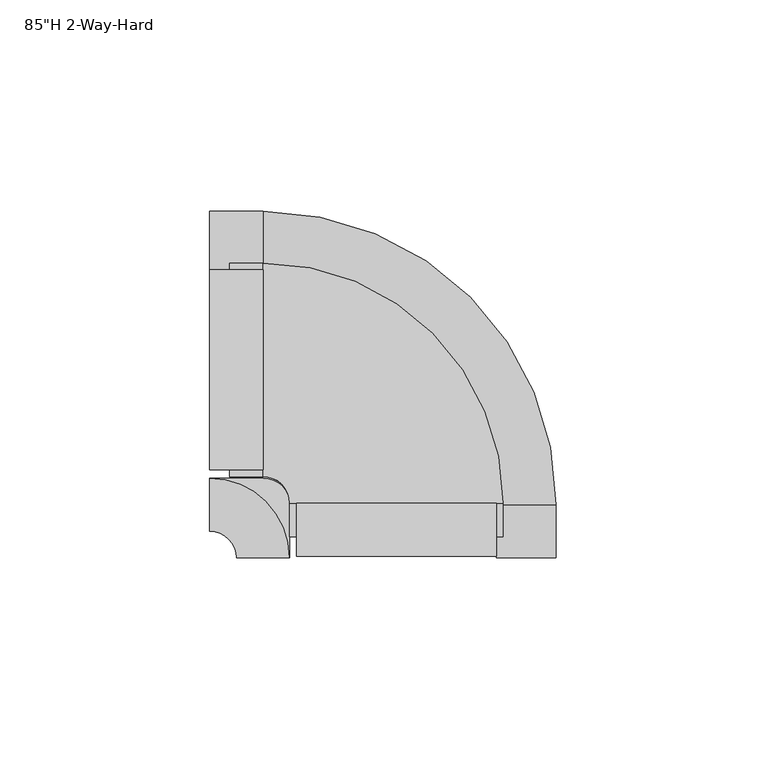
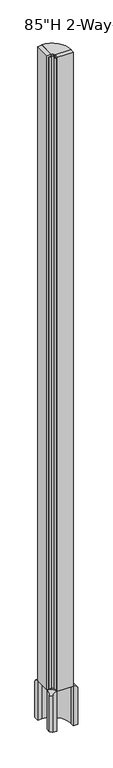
"""IFC4 building model written with IfcOpenShell, lengths in millimetres: furniture geometry."""

import ifcopenshell
import ifcopenshell.guid

model = None  # the IFC model being written
_history = None  # IfcOwnerHistory: only IFC2X3 demands one
_inside = {}  # id of a spatial element -> (the spatial element, [elements in it])
_under = {}  # id of a project, library or spatial element -> (it, [spatial elements below it])
_declared = {}  # id of a project -> (the project, [libraries it declares])
_typed = {}  # id of a type object -> (the type object, [elements of that type])
_made_of = {}  # id of a material, layer set ... -> (it, [elements and type objects made of it])


def new_model(schema):
    """Start an empty IFC model of exactly this schema.

    Asked for "IFC4X3", IfcOpenShell would pick the latest addendum, in which some entities
    have other attributes; the version numbers below select the first issue.
    IFC2X3 requires an IfcOwnerHistory on every rooted entity: one is made here for all.
    """
    global model, _history
    if schema == "IFC4X3":
        model = ifcopenshell.file(schema_version=(4, 3, 0, 0))
    else:
        model = ifcopenshell.file(schema=schema)
    _inside.clear()
    _under.clear()
    _declared.clear()
    _typed.clear()
    _made_of.clear()
    _history = None
    if model.schema == "IFC2X3":
        org = make("IfcOrganization", Name="unknown")
        user = make(
            "IfcPersonAndOrganization",
            ThePerson=make("IfcPerson", FamilyName="unknown"),
            TheOrganization=org,
        )
        app = make(
            "IfcApplication",
            ApplicationDeveloper=org,
            Version="unknown",
            ApplicationFullName="unknown",
            ApplicationIdentifier="unknown",
        )
        _history = make(
            "IfcOwnerHistory",
            OwningUser=user,
            OwningApplication=app,
            ChangeAction="ADDED",
            CreationDate=0,
        )
    return model


def make(cls, **values):
    """One entity of the class cls with the attributes given. An attribute that is None is left unset."""
    return model.create_entity(
        cls, **{name: value for name, value in values.items() if value is not None}
    )


def rooted(cls, **values):
    """An entity with a GlobalId (a new one), such as an element, a storey or a relation."""
    return make(cls, GlobalId=ifcopenshell.guid.new(), OwnerHistory=_history, **values)


def si_unit(unit_type, name, prefix=None):
    """IfcSIUnit, for example si_unit("LENGTHUNIT", "METRE", prefix="MILLI")."""
    return make("IfcSIUnit", UnitType=unit_type, Prefix=prefix, Name=name)


def assignment(units):
    """IfcUnitAssignment: the units of a project."""
    return None if units is None else make("IfcUnitAssignment", Units=units)


def point(xyz):
    """IfcCartesianPoint."""
    return None if xyz is None else make("IfcCartesianPoint", Coordinates=xyz)


def direction(xyz):
    """IfcDirection."""
    return None if xyz is None else make("IfcDirection", DirectionRatios=xyz)


def frame(location, z_axis=None, x_axis=None):
    """IfcAxis2Placement3D, a coordinate frame: its origin and axes. An axis left out is left unset."""
    return make(
        "IfcAxis2Placement3D",
        Location=point(location),
        Axis=direction(z_axis),
        RefDirection=direction(x_axis),
    )


def frame_2d(location, x_axis=None):
    """IfcAxis2Placement2D, a coordinate frame in the plane: its origin and x axis."""
    return make(
        "IfcAxis2Placement2D", Location=point(location), RefDirection=direction(x_axis)
    )


def origin():
    """The frame at (0, 0, 0) with its axes left unset."""
    return frame((0.0, 0.0, 0.0))


def place(relative_to, where):
    """IfcLocalPlacement: puts the frame where relative to a parent placement (None: the world)."""
    return make(
        "IfcLocalPlacement", PlacementRelTo=relative_to, RelativePlacement=where
    )


def context(
    kind, dimensions, precision=None, world=None, true_north=None, identifier=None
):
    """IfcGeometricRepresentationContext, for example the 3D "Model" context."""
    return make(
        "IfcGeometricRepresentationContext",
        ContextIdentifier=identifier,
        ContextType=kind,
        CoordinateSpaceDimension=dimensions,
        Precision=precision,
        WorldCoordinateSystem=world,
        TrueNorth=true_north,
    )


def project(units=None, contexts=None):
    """IfcProject with its units and contexts."""
    return rooted(
        "IfcProject",
        Name="project",
        RepresentationContexts=contexts,
        UnitsInContext=assignment(units),
    )


def spatial(cls, under=None, at=None, **own):
    """A site, building, storey or space (cls), placed at a placement, below another one or the project."""
    s = rooted(cls, ObjectPlacement=at, **own)
    if under is not None:
        _under.setdefault(under.id(), (under, []))[1].append(s)
    return s


def polyline(points):
    """IfcPolyline through the points."""
    return make("IfcPolyline", Points=[point(p) for p in points])


def circle_curve(where, radius):
    """IfcCircle in the frame where."""
    return make("IfcCircle", Position=where, Radius=radius)


def ellipse_curve(where, semi_axis1, semi_axis2):
    """IfcEllipse in the frame where."""
    return make(
        "IfcEllipse", Position=where, SemiAxis1=semi_axis1, SemiAxis2=semi_axis2
    )


def trimmed(basis, trim1, trim2, sense, master):
    """IfcTrimmedCurve: the piece of a basis curve between two trims."""
    return make(
        "IfcTrimmedCurve",
        BasisCurve=basis,
        Trim1=trim1,
        Trim2=trim2,
        SenseAgreement=sense,
        MasterRepresentation=master,
    )


def segment(curve, same_sense, transition):
    """IfcCompositeCurveSegment."""
    return make(
        "IfcCompositeCurveSegment",
        Transition=transition,
        SameSense=same_sense,
        ParentCurve=curve,
    )


def composite_curve(segments, self_intersect=None):
    """IfcCompositeCurve: segments joined end to end."""
    return make("IfcCompositeCurve", Segments=segments, SelfIntersect=self_intersect)


def outline(outer, holes=None, kind="AREA"):
    """IfcArbitraryClosedProfileDef: a profile drawn as a closed curve; with holes, ...WithVoids."""
    if holes is None:
        return make("IfcArbitraryClosedProfileDef", ProfileType=kind, OuterCurve=outer)
    return make(
        "IfcArbitraryProfileDefWithVoids",
        ProfileType=kind,
        OuterCurve=outer,
        InnerCurves=holes,
    )


def extrude(swept, where, along, depth):
    """IfcExtrudedAreaSolid: the profile swept, set in the frame where, extruded along a direction by depth."""
    return make(
        "IfcExtrudedAreaSolid",
        SweptArea=swept,
        Position=where,
        ExtrudedDirection=direction(along),
        Depth=depth,
    )


def shape(context_of_items, identifier, shape_type, items):
    """IfcShapeRepresentation: the items that make up one representation, for example the "Body"."""
    return make(
        "IfcShapeRepresentation",
        ContextOfItems=context_of_items,
        RepresentationIdentifier=identifier,
        RepresentationType=shape_type,
        Items=items,
    )


def source(mapping_origin, context_of_items, identifier, shape_type, items):
    """IfcRepresentationMap: a shape defined once, which mapped items show again and again."""
    return make(
        "IfcRepresentationMap",
        MappingOrigin=mapping_origin,
        MappedRepresentation=shape(context_of_items, identifier, shape_type, items),
    )


def transform(
    local_origin,
    x_axis=None,
    y_axis=None,
    z_axis=None,
    scale=None,
    scale2=None,
    scale3=None,
    uniform=True,
):
    """IfcCartesianTransformationOperator3D, or its non-uniform kind. x_axis, y_axis, z_axis: its Axis1, 2, 3."""
    if uniform:
        return make(
            "IfcCartesianTransformationOperator3D",
            Axis1=direction(x_axis),
            Axis2=direction(y_axis),
            LocalOrigin=point(local_origin),
            Scale=scale,
            Axis3=direction(z_axis),
        )
    return make(
        "IfcCartesianTransformationOperator3DnonUniform",
        Axis1=direction(x_axis),
        Axis2=direction(y_axis),
        LocalOrigin=point(local_origin),
        Scale=scale,
        Axis3=direction(z_axis),
        Scale2=scale2,
        Scale3=scale3,
    )


def mapped(mapping_source, mapping_target):
    """IfcMappedItem: shows the shape of a source again, moved by a transform."""
    return make(
        "IfcMappedItem", MappingSource=mapping_source, MappingTarget=mapping_target
    )


def made_of(thing, what):
    """Note that an element or type object is made of a material, layer set ...; save() writes the relation."""
    if what is not None:
        _made_of.setdefault(what.id(), (what, []))[1].append(thing)
    return thing


def element(
    cls,
    number,
    at=None,
    inside=None,
    cuts=None,
    type_object=None,
    material=None,
    context=None,
    identifier="Body",
    shape_type=None,
    held_by="IfcProductDefinitionShape",
    body=None,
    shapes=None,
    **own,
):
    """One element of the class cls, such as IfcWall. Its Tag is "e" and its number.

    at: its placement. inside: the storey or other place that contains it. cuts: it is an
    opening in that element (IfcRelVoidsElement). A single representation is given by context,
    identifier, shape_type and body (its items); several are given by shapes. held_by: the class
    of the entity that holds the representations. save() writes the other relations.
    """
    e = rooted(cls, Tag="e%d" % number, ObjectPlacement=at, **own)
    if body is not None:
        shapes = [shape(context, identifier, shape_type, body)]
    if shapes is not None:
        e.Representation = make(held_by, Representations=shapes)
    if inside is not None:
        _inside.setdefault(inside.id(), (inside, []))[1].append(e)
    if cuts is not None:
        rooted(
            "IfcRelVoidsElement", RelatingBuildingElement=cuts, RelatedOpeningElement=e
        )
    if type_object is not None:
        _typed.setdefault(type_object.id(), (type_object, []))[1].append(e)
    return made_of(e, material)


def aggregate(whole, parts):
    """IfcRelAggregates: a whole, such as a stair, and the parts it consists of."""
    return rooted("IfcRelAggregates", RelatingObject=whole, RelatedObjects=parts)


def save(model, path):
    """Write the relations noted so far, then the file.

    IfcRelAggregates (storeys below a building ...), IfcRelContainedInSpatialStructure (elements
    in a storey), IfcRelDefinesByType, IfcRelAssociatesMaterial and IfcRelDeclares: one each for
    every whole, place, type object, material and project.
    """
    for whole, parts in _under.values():
        aggregate(whole, parts)
    for where, things in _inside.values():
        rooted(
            "IfcRelContainedInSpatialStructure",
            RelatedElements=things,
            RelatingStructure=where,
        )
    for kind, things in _typed.values():
        rooted("IfcRelDefinesByType", RelatedObjects=things, RelatingType=kind)
    for what, things in _made_of.values():
        rooted("IfcRelAssociatesMaterial", RelatedObjects=things, RelatingMaterial=what)
    for by, libraries in _declared.values():
        rooted("IfcRelDeclares", RelatingContext=by, RelatedDefinitions=libraries)
    model.write(path)


def plane_surface(at):
    """IfcPlane: the flat surface through the origin of the frame at, square to its z axis."""
    return make("IfcPlane", Position=at)


def cylinder_surface(at, radius):
    """IfcCylindricalSurface: all points at the distance radius from the z axis of the frame at."""
    return make("IfcCylindricalSurface", Position=at, Radius=radius)


def revolved_surface(curve, axis_point, axis_direction):
    """IfcSurfaceOfRevolution: the curve turned about the line through axis_point along axis_direction."""
    return make(
        "IfcSurfaceOfRevolution",
        SweptCurve=make("IfcArbitraryOpenProfileDef", ProfileType="CURVE", Curve=curve),
        AxisPosition=make("IfcAxis1Placement", Location=point(axis_point), Axis=direction(axis_direction)),
    )


def advanced_brep(points, edges, surfaces, faces):
    """IfcAdvancedBrep: a solid bounded by faces that lie on surfaces and meet in shared edges.

    An edge is (start, end): straight between two places in points (the first is 0);
    or (start, end, curve); or (start, end, curve, False) where it runs against its curve.
    A face is (place in surfaces, loops), or (place, loops, False) where it looks against
    its surface's normal. A loop lists edges by number (the first is 1), with a minus sign
    where the edge is run from its end to its start. The first loop is the outer one.
    """
    corners = [point(p) for p in points]
    vertices = [make("IfcVertexPoint", VertexGeometry=c) for c in corners]
    made = []
    for start, end, *more in edges:
        made.append(
            make(
                "IfcEdgeCurve",
                EdgeStart=vertices[start],
                EdgeEnd=vertices[end],
                EdgeGeometry=more[0] if more else make("IfcPolyline", Points=[corners[start], corners[end]]),
                SameSense=more[1] if len(more) > 1 else True,
            )
        )
    hull = []
    for where, loops, *sense in faces:
        bounds = []
        for j, loop in enumerate(loops):
            ring = [make("IfcOrientedEdge", EdgeElement=made[abs(k) - 1], Orientation=k > 0) for k in loop]
            bounds.append(
                make(
                    "IfcFaceOuterBound" if j == 0 else "IfcFaceBound",
                    Bound=make("IfcEdgeLoop", EdgeList=ring),
                    Orientation=True,
                )
            )
        hull.append(make("IfcAdvancedFace", Bounds=bounds, FaceSurface=surfaces[where], SameSense=sense[0] if sense else True))
    return make("IfcAdvancedBrep", Outer=make("IfcClosedShell", CfsFaces=hull))


def furniture_d6d106ba(model_context):
    return source(origin(), model_context, "Body", "SolidModel", [
        advanced_brep(
        [(-19.0506343, -17.235422, 136.525), (-25.3999996, -10.8860567, 136.525), (-38.1, -10.8860567, 136.525), (-19.0506343, -29.9360586, 136.525), (-19.0506343, -17.235422, 9.525), (-19.0506343, -29.9360586, 9.525), (-31.7499951, -29.9360586, 9.525), (-38.1, -23.5860537, 9.525), (-38.1, -10.8860567, 9.525), (-25.3999996, -10.8860567, 9.525), (-38.1, -23.5860537, 123.8256424), (-31.7499951, -29.9360586, 123.8256423)],
        [
            (0, 1, circle_curve(frame((-25.3999996, -17.235422, 136.525), z_axis=(0.0, 0.0, 1.0), x_axis=(0.0, 1.0, 0.0)), 6.3493653)),
            (1, 2),
            (2, 3, circle_curve(frame((-38.1, -29.9360586, 136.525), z_axis=(0.0, 0.0, -1.0), x_axis=(0.0, 1.0, 0.0)), 19.0493657)),
            (3, 0),
            (4, 5),
            (5, 6),
            (6, 7, circle_curve(frame((-38.1, -29.9360586, 9.525), z_axis=(0.0, 0.0, 1.0), x_axis=(0.0, 1.0, 0.0)), 6.3500049)),
            (7, 8),
            (8, 9),
            (9, 4, circle_curve(frame((-25.3999996, -17.235422, 9.525), z_axis=(0.0, 0.0, -1.0), x_axis=(0.0, 1.0, 0.0)), 6.3493653)),
            (0, 4),
            (9, 1),
            (8, 2),
            (7, 10),
            (10, 2, circle_curve(frame((-38.1, -10.886693, 123.8256393), z_axis=(-1.0, 0.0, 0.0), x_axis=(0.0, 1.0, 0.0)), 12.6993607)),
            (6, 11),
            (11, 10, circle_curve(frame((-38.1, -29.9360586, 123.8256393), z_axis=(0.0, 0.0, 1.0), x_axis=(0.0, 1.0, 0.0)), 6.3500049)),
            (5, 3),
            (3, 11, circle_curve(frame((-19.0506343, -29.9360586, 123.8256393), z_axis=(0.0, -1.0, 0.0), x_axis=(1.0, 0.0, 0.0)), 12.6993607)),
        ],
        [
            plane_surface(frame((-25.3999996, -10.8860567, 136.525), z_axis=(0.0, 0.0, 1.0), x_axis=(-1.0, 0.0, 0.0))),
            plane_surface(frame((-25.3999996, -10.8860567, 9.525), z_axis=(0.0, 0.0, -1.0), x_axis=(1.0, 0.0, 0.0))),
            cylinder_surface(frame((-25.3999996, -17.235422, 9.525), z_axis=(0.0, 0.0, 1.0), x_axis=(0.0, 1.0, 0.0)), 6.3493653),
            plane_surface(frame((-25.3999996, -10.8860567, 136.525), z_axis=(0.0, 1.0, 0.0), x_axis=(0.0, 0.0, -1.0))),
            plane_surface(frame((-38.1, -10.8860567, 136.525), z_axis=(-1.0, 0.0, 0.0), x_axis=(0.0, 0.0, -1.0))),
            revolved_surface(polyline([(-38.1, -23.5860537, 9.525), (-38.1, -23.5860537, 123.8256424)]), (-38.1, -29.9360586, 9.525), (0.0, 0.0, -1.0)),
            plane_surface(frame((-31.7499951, -29.9360586, 136.525), z_axis=(0.0, -1.0, 0.0), x_axis=(0.0, 0.0, -1.0))),
            plane_surface(frame((-19.0506343, -29.9360586, 136.525), z_axis=(1.0, 0.0, 0.0), x_axis=(0.0, 0.0, -1.0))),
            revolved_surface(trimmed(ellipse_curve(frame((-38.1, -10.886693, 123.8256393), z_axis=(-1.0, 0.0, 0.0), x_axis=(0.0, 1.0, 0.0)), 12.6993607, 12.6993607), [point((-38.1, -23.5860537, 123.8256393))], [point((-38.1, -10.886693, 136.525))], True, "CARTESIAN"), (-38.1, -29.9360586, 9.525), (0.0, 0.0, -1.0)),
        ],
        [
            (0, [[1, 2, 3, 4]]),
            (1, [[5, 6, 7, 8, 9, 10]]),
            (2, [[-1, 11, -10, 12]]),
            (3, [[-2, -12, -9, 13]]),
            (4, [[-8, 14, 15, -13]]),
            (5, [[-7, 16, 17, -14]]),
            (6, [[-6, 18, 19, -16]]),
            (7, [[-4, -18, -5, -11]]),
            (8, [[-3, -15, -17, -19]]),
        ],
    ),
        advanced_brep(
        [(-38.0999996, 52.6145776, 123.825), (-38.0999996, 52.6145776, 9.525), (-38.0999996, 38.3270761, 9.525), (-38.0999996, 38.3270761, 136.4092179), (-25.3999996, 52.6145776, 123.825), (-25.3999996, 52.6145776, 9.525), (44.45, -17.235422, 9.525), (44.45, -29.935422, 9.525), (30.1624985, -29.935422, 9.525), (30.1624985, -17.235422, 9.525), (-25.3999996, 38.3270761, 9.525), (-25.3999996, 38.3270761, 136.4092179), (44.45, -17.235422, 123.825), (30.1624985, -17.235422, 136.4092179), (44.45, -29.935422, 123.825), (30.1624985, -29.935422, 136.4092179)],
        [
            (0, 1),
            (1, 2),
            (2, 3),
            (3, 0, circle_curve(frame((-38.0999996, 39.9288313, 123.825), z_axis=(-1.0, 0.0, 0.0), x_axis=(0.0, 1.0, 0.0)), 12.6857463)),
            (0, 4),
            (4, 5),
            (5, 1),
            (5, 6, circle_curve(frame((-25.3999996, -17.235422, 9.525), z_axis=(0.0, 0.0, -1.0), x_axis=(0.0, 1.0, 0.0)), 69.8499996)),
            (6, 7),
            (7, 8),
            (8, 9),
            (9, 10, circle_curve(frame((-25.3999996, -17.235422, 9.525), z_axis=(0.0, 0.0, 1.0), x_axis=(0.0, 1.0, 0.0)), 55.5624981)),
            (10, 2),
            (10, 11),
            (11, 3),
            (11, 4, circle_curve(frame((-25.3999996, 39.9288313, 123.825), z_axis=(-1.0, 0.0, 0.0), x_axis=(0.0, 1.0, 0.0)), 12.6857463)),
            (4, 12, circle_curve(frame((-25.3999996, -17.235422, 123.825), z_axis=(0.0, 0.0, -1.0), x_axis=(0.0, 1.0, 0.0)), 69.8499996)),
            (12, 6),
            (9, 13),
            (13, 11, circle_curve(frame((-25.3999996, -17.235422, 136.4092179), z_axis=(0.0, 0.0, 1.0), x_axis=(0.0, 1.0, 0.0)), 55.5624981)),
            (13, 12, circle_curve(frame((31.7642537, -17.235422, 123.825), z_axis=(0.0, 1.0, 0.0), x_axis=(1.0, 0.0, 0.0)), 12.6857463)),
            (7, 14),
            (14, 15, circle_curve(frame((31.7642537, -29.935422, 123.825), z_axis=(0.0, -1.0, 0.0), x_axis=(1.0, 0.0, 0.0)), 12.6857463)),
            (15, 8),
            (12, 14),
            (15, 13),
        ],
        [
            plane_surface(frame((-38.0999996, 14.5139433, 9.525), z_axis=(-1.0, 0.0, 0.0), x_axis=(0.0, 0.0, 1.0))),
            plane_surface(frame((-38.0999996, 52.6145776, 123.825), z_axis=(0.0, 1.0, 0.0), x_axis=(1.0, 0.0, 0.0))),
            plane_surface(frame((-38.0999996, 52.6145776, 9.525), z_axis=(0.0, 0.0, -1.0), x_axis=(1.0, 0.0, 0.0))),
            plane_surface(frame((-38.0999996, 38.3270761, 9.525), z_axis=(0.0, -1.0, 0.0), x_axis=(1.0, 0.0, 0.0))),
            cylinder_surface(frame((-38.0999996, 39.9288313, 123.825), z_axis=(-1.0, 0.0, 0.0), x_axis=(0.0, 1.0, 0.0)), 12.6857463),
            cylinder_surface(frame((-25.3999996, -17.235422, 9.525), z_axis=(0.0, 0.0, -1.0), x_axis=(0.0, 1.0, 0.0)), 69.8499996),
            revolved_surface(polyline([(-25.3999996, 38.3270761, 9.525), (-25.3999996, 38.3270761, 136.4092179)]), (-25.3999996, -17.235422, 9.525), (0.0, 0.0, -1.0)),
            revolved_surface(trimmed(ellipse_curve(frame((-25.3999996, 39.9288313, 123.825), z_axis=(-1.0, 0.0, 0.0), x_axis=(0.0, 1.0, 0.0)), 12.6857463, 12.6857463), [point((-25.3999996, 38.3270761, 136.4092179))], [point((-25.3999996, 52.6145776, 123.825))], True, "CARTESIAN"), (-25.3999996, -17.235422, 9.525), (0.0, 0.0, -1.0)),
            plane_surface(frame((6.3493657, -29.935422, 9.525), z_axis=(0.0, -1.0, 0.0), x_axis=(0.0, 0.0, 1.0))),
            plane_surface(frame((44.45, -17.235422, 123.825), z_axis=(1.0, 0.0, 0.0), x_axis=(0.0, -1.0, 0.0))),
            plane_surface(frame((30.1624985, -17.235422, 9.525), z_axis=(-1.0, 0.0, 0.0), x_axis=(0.0, -1.0, 0.0))),
            cylinder_surface(frame((31.7642537, -17.235422, 123.825), z_axis=(0.0, 1.0, 0.0), x_axis=(1.0, 0.0, 0.0)), 12.6857463),
        ],
        [
            (0, [[1, 2, 3, 4]]),
            (1, [[-1, 5, 6, 7]]),
            (2, [[-2, -7, 8, 9, 10, 11, 12, 13]]),
            (3, [[-3, -13, 14, 15]]),
            (4, [[-4, -15, 16, -5]]),
            (5, [[-6, 17, 18, -8]]),
            (6, [[-12, 19, 20, -14]]),
            (7, [[-16, -20, 21, -17]]),
            (8, [[-10, 22, 23, 24]]),
            (9, [[-9, -18, 25, -22]]),
            (10, [[-11, -24, 26, -19]]),
            (11, [[-21, -26, -23, -25]]),
        ],
    ),
        extrude(outline(polyline([(30.1624985, -29.9360586), (-17.4624992, -29.9360586), (-17.4624992, -17.210659), (30.1624985, -17.210659), (30.1624985, -29.9360586)])), frame((0.0, 0.0, 136.525), z_axis=(0.0, 0.0, 1.0), x_axis=(1.0, 0.0, 0.0)), (0.0, 0.0, 1.0), 2032.0),
        extrude(outline(polyline([(-38.1, -9.2985567), (-38.1, 38.3264433), (-25.3999996, 38.3264433), (-25.3999996, -9.2985567), (-38.1, -9.2985567)])), frame((0.0, 0.0, 136.525), z_axis=(0.0, 0.0, 1.0), x_axis=(1.0, 0.0, 0.0)), (0.0, 0.0, 1.0), 2032.0),
        extrude(outline(composite_curve([segment(trimmed(circle_curve(frame_2d((-25.3999996, -17.235422)), 6.3493653), [point((-19.0506343, -17.235422))], [point((-25.3999996, -10.8860567))], True, "CARTESIAN"), True, "CONTINUOUS"), segment(polyline([(-25.3999996, -10.8860567), (-33.3375, -10.8860567), (-33.3375, 39.9139433), (-25.3752366, 39.9139433)]), True, "CONTINUOUS"), segment(trimmed(circle_curve(frame_2d((-25.3752366, -17.210659)), 57.1246022), [point((-25.3752366, 39.9139433))], [point((31.7493657, -17.210659))], False, "CARTESIAN"), True, "CONTINUOUS"), segment(polyline([(31.7493657, -17.210659), (31.7493657, -25.1735586), (-19.0506343, -25.1735586), (-19.0506343, -17.235422)]), True, "CONTINUOUS")], self_intersect=False)), frame((0.0, 0.0, 136.525), z_axis=(0.0, 0.0, 1.0), x_axis=(1.0, 0.0, 0.0)), (0.0, 0.0, 1.0), 2025.6499758),
        extrude(outline(composite_curve([segment(polyline([(-25.3999996, -10.886063), (-25.3999996, 39.9139433)]), True, "CONTINUOUS"), segment(trimmed(circle_curve(frame_2d((-25.382294, -17.2177141)), 57.1316601), [point((-25.3999996, 39.9139433))], [point((31.7493657, -17.210659))], False, "CARTESIAN"), True, "CONTINUOUS"), segment(polyline([(31.7493657, -17.210659), (-19.0506343, -17.210659)]), True, "CONTINUOUS"), segment(trimmed(circle_curve(frame_2d((-25.391065, -17.2265072)), 6.3404505), [point((-19.0506343, -17.210659))], [point((-25.3999996, -10.886063))], True, "CARTESIAN"), True, "CONTINUOUS")], self_intersect=False)), frame((0.0, 0.0, 2162.1749758), z_axis=(0.0, 0.0, 1.0), x_axis=(1.0, 0.0, 0.0)), (0.0, 0.0, 1.0), 6.3500242),
    ])


if __name__ == "__main__":
    model = new_model("IFC4")
    model_context = context("Model", 3, world=origin())
    ifc_project = project(units=[si_unit("LENGTHUNIT", "METRE", prefix="MILLI")], contexts=[model_context])
    site = spatial("IfcSite", under=ifc_project)
    building = spatial("IfcBuilding", under=site)
    placement = place(None, origin())
    furniture_shape = furniture_d6d106ba(model_context)
    element("IfcFurniture", 1, ObjectType="HermanMiller_ActionOffice_A1220_90ConnectorStandardBase : 85\"H 2-Way-Hard", at=placement, inside=building, context=model_context, shape_type="MappedRepresentation", body=[
        mapped(furniture_shape, transform((0.0, 0.0, 0.0), x_axis=(1.0, 0.0, 0.0), y_axis=(0.0, 1.0, 0.0), z_axis=(0.0, 0.0, 1.0))),
    ])
    save(model, "model.ifc")
